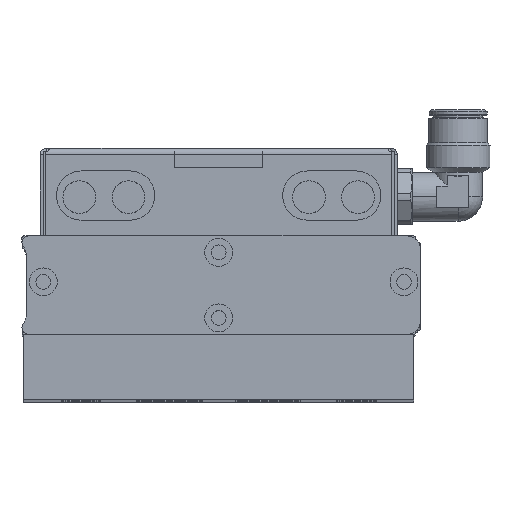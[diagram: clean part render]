
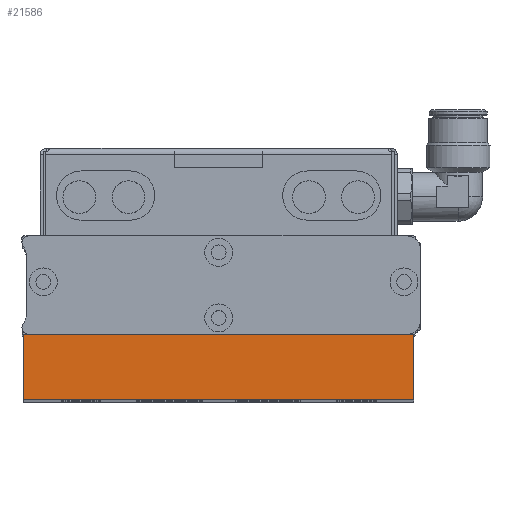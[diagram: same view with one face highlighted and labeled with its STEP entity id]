
A CAD part, top view. The second image highlights one B-rep face of the part: STEP entity #21586.
In plain terms, the highlighted planar face has unit normal (0, 0, 1).
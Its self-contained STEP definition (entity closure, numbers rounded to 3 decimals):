
#506 = LINE ( 'NONE', #29166, #7360 ) ;
#758 = CARTESIAN_POINT ( 'NONE',  ( 36.4, -51.3, 202. ) ) ;
#1083 = DIRECTION ( 'NONE',  ( 1., 0., 0. ) ) ;
#1471 = CARTESIAN_POINT ( 'NONE',  ( -82.6, -51.3, 202. ) ) ;
#3072 = DIRECTION ( 'NONE',  ( 0., -1., 0. ) ) ;
#3621 = EDGE_CURVE ( 'NONE', #7599, #18738, #18262, .T. ) ;
#4385 = CARTESIAN_POINT ( 'NONE',  ( 36.4, -71.3, 202. ) ) ;
#5184 = VECTOR ( 'NONE', #8817, 1000. ) ;
#5847 = LINE ( 'NONE', #758, #17494 ) ;
#5929 = VERTEX_POINT ( 'NONE', #26433 ) ;
#6994 = VERTEX_POINT ( 'NONE', #13199 ) ;
#7037 = EDGE_CURVE ( 'NONE', #5929, #6994, #19370, .T. ) ;
#7360 = VECTOR ( 'NONE', #10750, 1000. ) ;
#7599 = VERTEX_POINT ( 'NONE', #28400 ) ;
#8325 = ORIENTED_EDGE ( 'NONE', *, *, #3621, .T. ) ;
#8620 = EDGE_LOOP ( 'NONE', ( #8325, #21548, #25914, #16491 ) ) ;
#8817 = DIRECTION ( 'NONE',  ( 1., 0., 0. ) ) ;
#10750 = DIRECTION ( 'NONE',  ( 0., -1., 0. ) ) ;
#11027 = VECTOR ( 'NONE', #1083, 1000. ) ;
#13199 = CARTESIAN_POINT ( 'NONE',  ( 36.4, -51.3, 202. ) ) ;
#16080 = FACE_OUTER_BOUND ( 'NONE', #8620, .T. ) ;
#16491 = ORIENTED_EDGE ( 'NONE', *, *, #29062, .T. ) ;
#17487 = DIRECTION ( 'NONE',  ( 0., 1., 0. ) ) ;
#17494 = VECTOR ( 'NONE', #3072, 1000. ) ;
#18262 = LINE ( 'NONE', #27028, #11027 ) ;
#18738 = VERTEX_POINT ( 'NONE', #4385 ) ;
#19370 = LINE ( 'NONE', #29662, #5184 ) ;
#19512 = EDGE_CURVE ( 'NONE', #6994, #18738, #5847, .T. ) ;
#19719 = PLANE ( 'NONE',  #29004 ) ;
#21548 = ORIENTED_EDGE ( 'NONE', *, *, #19512, .F. ) ;
#21586 = ADVANCED_FACE ( 'NONE', ( #16080 ), #19719, .F. ) ;
#24575 = DIRECTION ( 'NONE',  ( 0., 0., -1. ) ) ;
#25914 = ORIENTED_EDGE ( 'NONE', *, *, #7037, .F. ) ;
#26433 = CARTESIAN_POINT ( 'NONE',  ( -82.6, -51.3, 202. ) ) ;
#27028 = CARTESIAN_POINT ( 'NONE',  ( -82.6, -71.3, 202. ) ) ;
#28400 = CARTESIAN_POINT ( 'NONE',  ( -82.6, -71.3, 202. ) ) ;
#29004 = AXIS2_PLACEMENT_3D ( 'NONE', #1471, #24575, #17487 ) ;
#29062 = EDGE_CURVE ( 'NONE', #5929, #7599, #506, .T. ) ;
#29166 = CARTESIAN_POINT ( 'NONE',  ( -82.6, -51.3, 202. ) ) ;
#29662 = CARTESIAN_POINT ( 'NONE',  ( -82.6, -51.3, 202. ) ) ;
